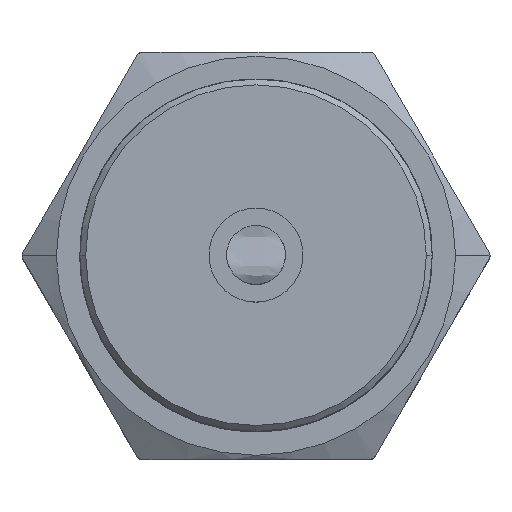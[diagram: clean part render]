
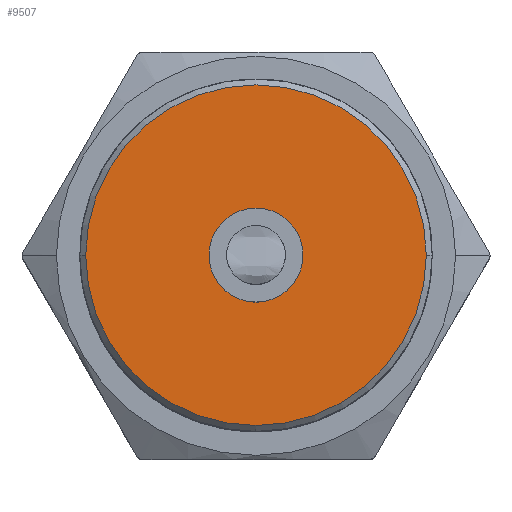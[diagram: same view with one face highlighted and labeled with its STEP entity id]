
A CAD part, top view. The second image highlights one B-rep face of the part: STEP entity #9507.
In plain terms, the highlighted planar face has unit normal (0, 0, 1).
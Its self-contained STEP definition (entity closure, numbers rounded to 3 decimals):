
#5384=CARTESIAN_POINT('',(0.,0.,80.));
#5385=DIRECTION('',(0.,0.,1.));
#5386=DIRECTION('',(1.,0.,0.));
#5387=AXIS2_PLACEMENT_3D('',#5384,#5385,#5386);
#5392=CARTESIAN_POINT('',(0.,0.,80.));
#5393=DIRECTION('',(0.,0.,1.));
#5394=DIRECTION('',(-1.,0.,0.));
#5395=AXIS2_PLACEMENT_3D('',#5392,#5393,#5394);
#5400=CARTESIAN_POINT('',(0.,0.,80.));
#5401=DIRECTION('',(0.,0.,1.));
#5402=DIRECTION('',(1.,0.,0.));
#5403=AXIS2_PLACEMENT_3D('',#5400,#5401,#5402);
#5408=CARTESIAN_POINT('',(0.,0.,80.));
#5409=DIRECTION('',(0.,0.,1.));
#5410=DIRECTION('',(-1.,0.,0.));
#5411=AXIS2_PLACEMENT_3D('',#5408,#5409,#5410);
#7086=CARTESIAN_POINT('',(4.,0.,80.));
#7087=CARTESIAN_POINT('',(-4.,0.,80.));
#7088=VERTEX_POINT('',#7086);
#7089=VERTEX_POINT('',#7087);
#7094=CARTESIAN_POINT('',(-14.5,0.,
80.));
#7095=VERTEX_POINT('',#7094);
#7096=CARTESIAN_POINT('',(14.5,0.,80.));
#7097=VERTEX_POINT('',#7096);
#9492=CARTESIAN_POINT('',(0.,0.,80.));
#9493=DIRECTION('',(0.,0.,1.));
#9494=DIRECTION('',(1.,0.,0.));
#9495=AXIS2_PLACEMENT_3D('',#9492,#9493,#9494);
#9496=PLANE('',#9495);
#9497=ORIENTED_EDGE('',*,*,#9471,.F.);
#9498=ORIENTED_EDGE('',*,*,#9485,.F.);
#9499=EDGE_LOOP('',(#9497,#9498));
#9500=FACE_OUTER_BOUND('',#9499,.F.);
#9502=ORIENTED_EDGE('',*,*,#9501,.T.);
#9504=ORIENTED_EDGE('',*,*,#9503,.T.);
#9505=EDGE_LOOP('',(#9502,#9504));
#9506=FACE_BOUND('',#9505,.F.);
#5388=CIRCLE('',#5387,4.);
#5396=CIRCLE('',#5395,4.);
#5404=CIRCLE('',#5403,14.5);
#5412=CIRCLE('',#5411,14.5);
#9471=EDGE_CURVE('',#7097,#7095,#5404,.T.);
#9485=EDGE_CURVE('',#7095,#7097,#5412,.T.);
#9501=EDGE_CURVE('',#7088,#7089,#5388,.T.);
#9503=EDGE_CURVE('',#7089,#7088,#5396,.T.);
#9507=ADVANCED_FACE('',(#9500,#9506),#9496,.T.);
